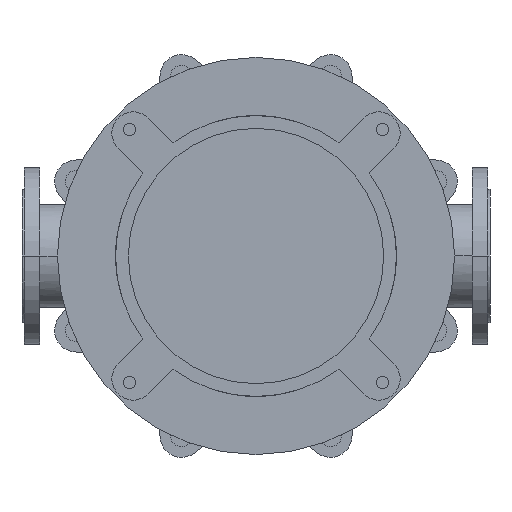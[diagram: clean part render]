
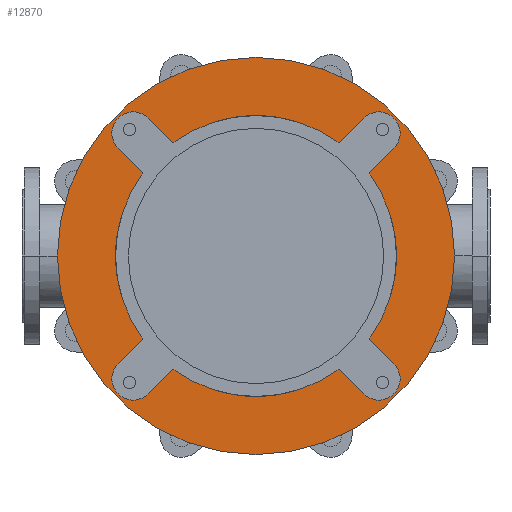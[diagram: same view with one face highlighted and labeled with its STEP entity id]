
A CAD part, front view. The second image highlights one B-rep face of the part: STEP entity #12870.
In plain terms, the highlighted planar face has unit normal (0, -1, 0).
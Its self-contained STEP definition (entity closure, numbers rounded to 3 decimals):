
#2527=CARTESIAN_POINT('',(0.,-25.,0.));
#2528=DIRECTION('',(0.,1.,0.));
#2529=DIRECTION('',(0.592,0.,-0.806));
#2530=AXIS2_PLACEMENT_3D('',#2527,#2528,#2529);
#2545=CARTESIAN_POINT('',(0.,-25.,0.));
#2546=DIRECTION('',(0.,1.,0.));
#2547=DIRECTION('',(0.806,0.,0.592));
#2548=AXIS2_PLACEMENT_3D('',#2545,#2546,#2547);
#2572=CARTESIAN_POINT('',(0.,-25.,0.));
#2573=DIRECTION('',(0.,1.,0.));
#2574=DIRECTION('',(-0.806,0.,-0.592));
#2575=AXIS2_PLACEMENT_3D('',#2572,#2573,#2574);
#2581=CARTESIAN_POINT('',(0.,-25.,0.));
#2582=DIRECTION('',(0.,1.,0.));
#2583=DIRECTION('',(-0.592,0.,0.806));
#2584=AXIS2_PLACEMENT_3D('',#2581,#2582,#2583);
#2759=CARTESIAN_POINT('',(0.,-25.,0.));
#2760=DIRECTION('',(0.,-1.,0.));
#2761=DIRECTION('',(-1.,0.,0.));
#2762=AXIS2_PLACEMENT_3D('',#2759,#2760,#2761);
#2764=CARTESIAN_POINT('',(0.,-25.,0.));
#2765=DIRECTION('',(0.,1.,0.));
#2766=DIRECTION('',(-1.,0.,0.));
#2767=AXIS2_PLACEMENT_3D('',#2764,#2765,#2766);
#2769=CARTESIAN_POINT('',(-173.241,-25.,173.241));
#2770=DIRECTION('',(0.,-1.,0.));
#2771=DIRECTION('',(0.707,0.,0.707));
#2772=AXIS2_PLACEMENT_3D('',#2769,#2770,#2771);
#2774=DIRECTION('',(0.707,0.,-0.707));
#2775=VECTOR('',#2774,49.286);
#2776=CARTESIAN_POINT('',(-194.454,-25.,152.028));
#2777=LINE('',#2776,#2775);
#2778=DIRECTION('',(-0.707,0.,-0.707));
#2779=VECTOR('',#2778,49.286);
#2780=CARTESIAN_POINT('',(-159.604,-25.,-117.178));
#2781=LINE('',#2780,#2779);
#2782=CARTESIAN_POINT('',(-173.241,-25.,-173.241));
#2783=DIRECTION('',(0.,-1.,0.));
#2784=DIRECTION('',(-0.707,0.,0.707));
#2785=AXIS2_PLACEMENT_3D('',#2782,#2783,#2784);
#2787=DIRECTION('',(0.707,0.,0.707));
#2788=VECTOR('',#2787,49.286);
#2789=CARTESIAN_POINT('',(-152.028,-25.,-194.454));
#2790=LINE('',#2789,#2788);
#2791=DIRECTION('',(0.707,0.,-0.707));
#2792=VECTOR('',#2791,49.286);
#2793=CARTESIAN_POINT('',(117.178,-25.,-159.604));
#2794=LINE('',#2793,#2792);
#2795=CARTESIAN_POINT('',(173.241,-25.,-173.241));
#2796=DIRECTION('',(0.,-1.,0.));
#2797=DIRECTION('',(-0.707,0.,-0.707));
#2798=AXIS2_PLACEMENT_3D('',#2795,#2796,#2797);
#2800=DIRECTION('',(-0.707,0.,0.707));
#2801=VECTOR('',#2800,49.286);
#2802=CARTESIAN_POINT('',(194.454,-25.,-152.028));
#2803=LINE('',#2802,#2801);
#2804=DIRECTION('',(0.707,0.,0.707));
#2805=VECTOR('',#2804,49.286);
#2806=CARTESIAN_POINT('',(159.604,-25.,117.178));
#2807=LINE('',#2806,#2805);
#2808=CARTESIAN_POINT('',(173.241,-25.,173.241));
#2809=DIRECTION('',(0.,-1.,0.));
#2810=DIRECTION('',(0.707,0.,-0.707));
#2811=AXIS2_PLACEMENT_3D('',#2808,#2809,#2810);
#2813=DIRECTION('',(-0.707,0.,-0.707));
#2814=VECTOR('',#2813,49.286);
#2815=CARTESIAN_POINT('',(152.028,-25.,194.454));
#2816=LINE('',#2815,#2814);
#2817=DIRECTION('',(-0.707,0.,0.707));
#2818=VECTOR('',#2817,49.286);
#2819=CARTESIAN_POINT('',(-117.178,-25.,159.604));
#2820=LINE('',#2819,#2818);
#8383=CARTESIAN_POINT('',(-280.,-25.,0.));
#8384=CARTESIAN_POINT('',(280.,-25.,0.));
#8385=VERTEX_POINT('',#8383);
#8386=VERTEX_POINT('',#8384);
#8407=CARTESIAN_POINT('',(-194.454,-25.,-152.028));
#8408=CARTESIAN_POINT('',(-152.028,-25.,-194.454));
#8409=VERTEX_POINT('',#8407);
#8410=VERTEX_POINT('',#8408);
#8411=CARTESIAN_POINT('',(-117.178,-25.,-159.604));
#8412=VERTEX_POINT('',#8411);
#8413=CARTESIAN_POINT('',(-159.604,-25.,-117.178));
#8414=VERTEX_POINT('',#8413);
#8423=CARTESIAN_POINT('',(152.028,-25.,-194.454));
#8424=CARTESIAN_POINT('',(194.454,-25.,-152.028));
#8425=VERTEX_POINT('',#8423);
#8426=VERTEX_POINT('',#8424);
#8427=CARTESIAN_POINT('',(159.604,-25.,-117.178));
#8428=VERTEX_POINT('',#8427);
#8429=CARTESIAN_POINT('',(117.178,-25.,-159.604));
#8430=VERTEX_POINT('',#8429);
#8439=CARTESIAN_POINT('',(194.454,-25.,152.028));
#8440=CARTESIAN_POINT('',(152.028,-25.,194.454));
#8441=VERTEX_POINT('',#8439);
#8442=VERTEX_POINT('',#8440);
#8443=CARTESIAN_POINT('',(117.178,-25.,159.604));
#8444=VERTEX_POINT('',#8443);
#8445=CARTESIAN_POINT('',(159.604,-25.,117.178));
#8446=VERTEX_POINT('',#8445);
#8455=CARTESIAN_POINT('',(-152.028,-25.,194.454));
#8456=CARTESIAN_POINT('',(-194.454,-25.,152.028));
#8457=VERTEX_POINT('',#8455);
#8458=VERTEX_POINT('',#8456);
#8459=CARTESIAN_POINT('',(-159.604,-25.,117.178));
#8460=VERTEX_POINT('',#8459);
#8461=CARTESIAN_POINT('',(-117.178,-25.,159.604));
#8462=VERTEX_POINT('',#8461);
#12830=CARTESIAN_POINT('',(0.,-25.,0.));
#12831=DIRECTION('',(0.,-1.,0.));
#12832=DIRECTION('',(-1.,0.,0.));
#12833=AXIS2_PLACEMENT_3D('',#12830,#12831,#12832);
#12834=PLANE('',#12833);
#12836=ORIENTED_EDGE('',*,*,#12835,.F.);
#12838=ORIENTED_EDGE('',*,*,#12837,.T.);
#12839=EDGE_LOOP('',(#12836,#12838));
#12840=FACE_OUTER_BOUND('',#12839,.F.);
#12842=ORIENTED_EDGE('',*,*,#12841,.T.);
#12844=ORIENTED_EDGE('',*,*,#12843,.T.);
#12845=ORIENTED_EDGE('',*,*,#12783,.F.);
#12847=ORIENTED_EDGE('',*,*,#12846,.T.);
#12849=ORIENTED_EDGE('',*,*,#12848,.T.);
#12851=ORIENTED_EDGE('',*,*,#12850,.T.);
#12852=ORIENTED_EDGE('',*,*,#12736,.F.);
#12853=ORIENTED_EDGE('',*,*,#12820,.T.);
#12855=ORIENTED_EDGE('',*,*,#12854,.T.);
#12857=ORIENTED_EDGE('',*,*,#12856,.T.);
#12858=ORIENTED_EDGE('',*,*,#12757,.F.);
#12860=ORIENTED_EDGE('',*,*,#12859,.T.);
#12862=ORIENTED_EDGE('',*,*,#12861,.T.);
#12864=ORIENTED_EDGE('',*,*,#12863,.T.);
#12865=ORIENTED_EDGE('',*,*,#12801,.F.);
#12867=ORIENTED_EDGE('',*,*,#12866,.T.);
#12868=EDGE_LOOP('',(#12842,#12844,#12845,#12847,#12849,#12851,#12852,#12853,
#12855,#12857,#12858,#12860,#12862,#12864,#12865,#12867));
#12869=FACE_BOUND('',#12868,.F.);
#12870=ADVANCED_FACE('',(#12840,#12869),#12834,.T.);
#2531=CIRCLE('',#2530,198.);
#2549=CIRCLE('',#2548,198.);
#2576=CIRCLE('',#2575,198.);
#2585=CIRCLE('',#2584,198.);
#2763=CIRCLE('',#2762,280.);
#2768=CIRCLE('',#2767,280.);
#2773=CIRCLE('',#2772,30.);
#2786=CIRCLE('',#2785,30.);
#2799=CIRCLE('',#2798,30.);
#2812=CIRCLE('',#2811,30.);
#12736=EDGE_CURVE('',#8430,#8412,#2531,.T.);
#12757=EDGE_CURVE('',#8446,#8428,#2549,.T.);
#12783=EDGE_CURVE('',#8414,#8460,#2576,.T.);
#12801=EDGE_CURVE('',#8462,#8444,#2585,.T.);
#12820=EDGE_CURVE('',#8430,#8425,#2794,.T.);
#12835=EDGE_CURVE('',#8385,#8386,#2763,.T.);
#12837=EDGE_CURVE('',#8385,#8386,#2768,.T.);
#12841=EDGE_CURVE('',#8457,#8458,#2773,.T.);
#12843=EDGE_CURVE('',#8458,#8460,#2777,.T.);
#12846=EDGE_CURVE('',#8414,#8409,#2781,.T.);
#12848=EDGE_CURVE('',#8409,#8410,#2786,.T.);
#12850=EDGE_CURVE('',#8410,#8412,#2790,.T.);
#12854=EDGE_CURVE('',#8425,#8426,#2799,.T.);
#12856=EDGE_CURVE('',#8426,#8428,#2803,.T.);
#12859=EDGE_CURVE('',#8446,#8441,#2807,.T.);
#12861=EDGE_CURVE('',#8441,#8442,#2812,.T.);
#12863=EDGE_CURVE('',#8442,#8444,#2816,.T.);
#12866=EDGE_CURVE('',#8462,#8457,#2820,.T.);
